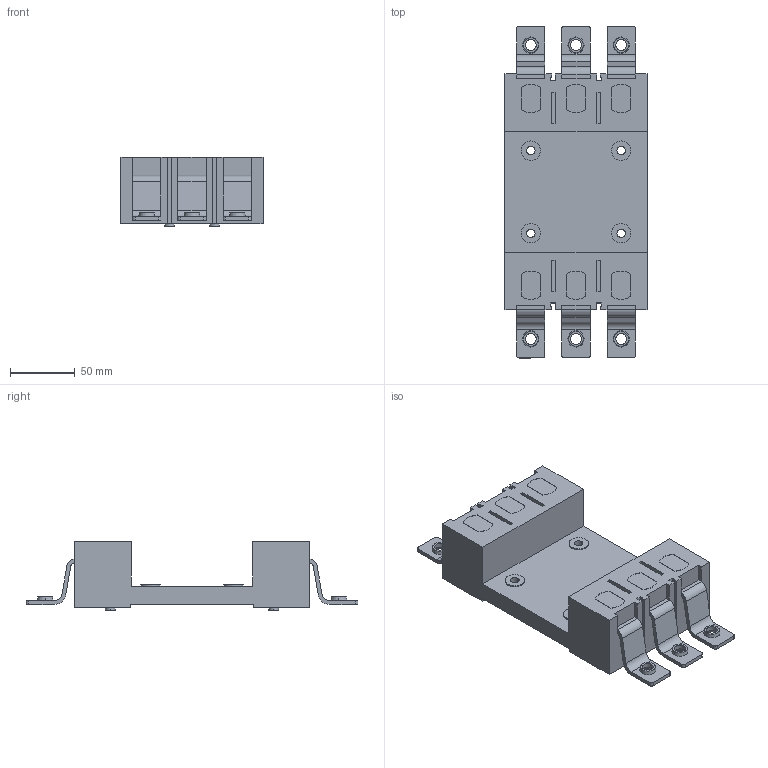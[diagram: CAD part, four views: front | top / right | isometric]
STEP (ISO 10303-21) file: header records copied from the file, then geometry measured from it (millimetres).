
FILE_DESCRIPTION (( 'STEP AP214' ), '1' );
FILE_NAME ('买眍錩铖眍忄龛錩镥疱漤邋_TEM5E_PV_250.STEP', '2025-12-08T07:02:23', ( '' ), ( '' ), 'SwSTEP 2.0', 'SolidWorks 2024', '' );
FILE_SCHEMA (( 'AUTOMOTIVE_DESIGN' ));
Length unit declared in the file: millimetre
Products named in the file (3): Втычное_основание_переднее_TEM5E_PV_250; Втычное_основание_переднее_TEM5E_PV_250.stp; boj26D43AE58wjc_1.stp
Assembly tree (2 placements, depth 3):
  Втычное_основание_переднее_TEM5E_PV_250
    Втычное_основание_переднее_TEM5E_PV_250.stp
      boj26D43AE58wjc_1.stp
Bounding box: 110 x 257 x 53.8 mm (x, y, z)
Volume: 435956.5 mm3; surface area: 140449.2 mm2
Topology: 1 solids, 1 shells, 532 faces, 1380 edges, 908 vertices
Faces by surface type: plane 340, cylinder 168, cone 12, torus 12
Entity records: 16385 total; most frequent: DIRECTION 2864, CARTESIAN_POINT 2826, ORIENTED_EDGE 2760, EDGE_CURVE 1380, VECTOR 972, LINE 972, AXIS2_PLACEMENT_3D 946, VERTEX_POINT 908
